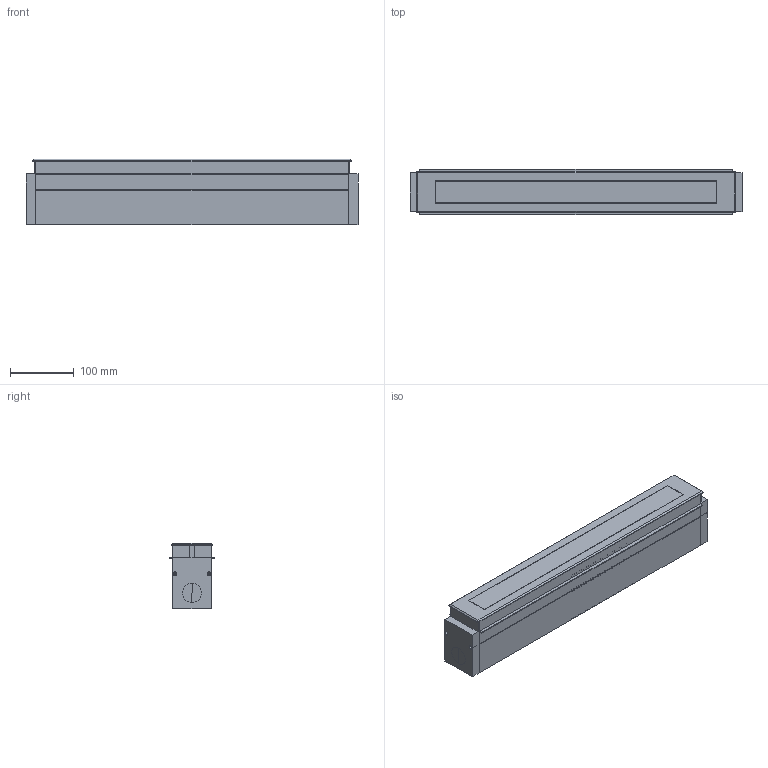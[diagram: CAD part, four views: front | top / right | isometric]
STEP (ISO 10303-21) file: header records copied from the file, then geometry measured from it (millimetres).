
FILE_DESCRIPTION(/* description */ (''),/* implementation_level */ '2;1');
FILE_NAME(/* name */ 'C:\Users\FrancoSartori\Documents\FARO\01_En Proceso\00_FALLS\03_Publicación\71736.stp',/* time_stamp */ '2021-05-04T12:48:30+02:00',/* author */ ('FrancoSartori'),/* organization */ (''),/* preprocessor_version */ 'ST-DEVELOPER v18.1',/* originating_system */ 'AutoCAD Mechanical',/* authorisation */ '');
FILE_SCHEMA (('AUTOMOTIVE_DESIGN { 1 0 10303 214 3 1 1 }'));
Length unit declared in the file: millimetre
Products named in the file (2): Product; 71736_ 71737_ - GRUND-429023-_3D_
Assembly tree (1 placements, depth 2):
  Product
    71736_ 71737_ - GRUND-429023-_3D_
Bounding box: 521 x 71 x 103 mm (x, y, z)
Volume: 875150.3 mm3; surface area: 615656 mm2
Topology: 18 solids, 18 shells, 289 faces, 738 edges, 484 vertices
Faces by surface type: plane 228, cylinder 55, cone 4, torus 2
Entity records: 8940 total; most frequent: CARTESIAN_POINT 1680, ORIENTED_EDGE 1476, DIRECTION 1454, EDGE_CURVE 738, LINE 598, VECTOR 598, VERTEX_POINT 484, AXIS2_PLACEMENT_3D 428
